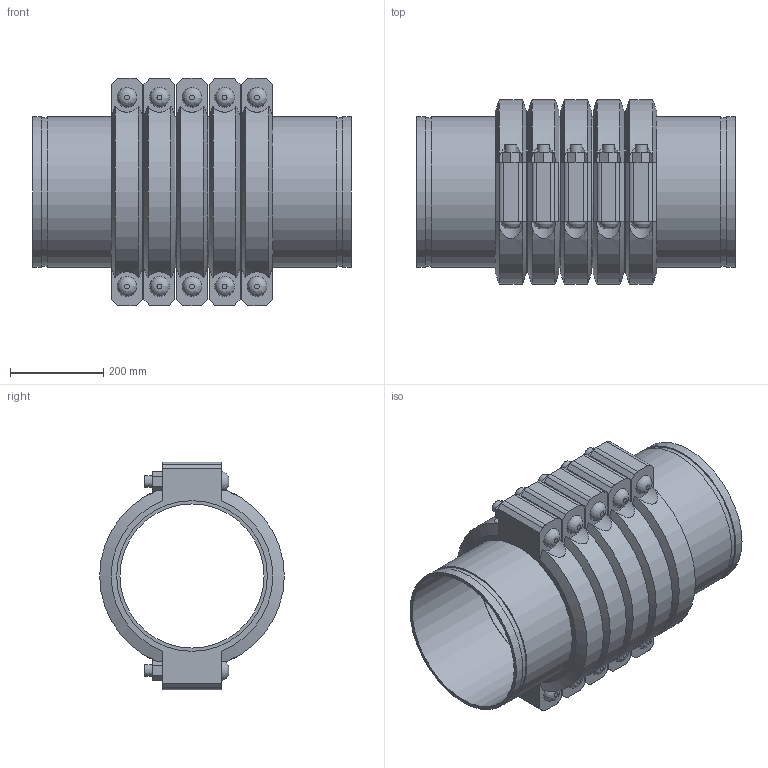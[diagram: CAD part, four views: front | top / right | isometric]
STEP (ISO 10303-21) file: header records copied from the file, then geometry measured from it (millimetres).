
FILE_DESCRIPTION(/* description */ ('VIC EXPANSION JOINT 5 COUPLINGS COMPRESSED STYLE 155 (OGS)','CAx-IF Rec.Pracs.---Representation and Presentation of Product Manufacturing Information (PMI)---4.0---2014-10-13'),/* implementation_level */ '2;1');
FILE_NAME(/* name */ 'C:\Users\kkamble\AppData\Roaming\Autodesk\ApplicationPlugins\Victaulic.Temp\A136\Victaulic_IPS_Expansion Joint_Compressed_5 Couplings_Style 155 (OGS)_12 (300).stp',/* time_stamp */ '2021-06-27T00:30:16+02:00',/* author */ ('kkamble'),/* organization */ ('Victaulic'),/* preprocessor_version */ 'ST-DEVELOPER v17.2',/* originating_system */ 'Autodesk Inventor 2019',/* authorisation */ '');
FILE_SCHEMA (('AP242_MANAGED_MODEL_BASED_3D_ENGINEERING_MIM_LF { 1 0 10303 442 1 1 4 }'));
Length unit declared in the file: inch
Products named in the file (4): 155-12.0; Nipple-12.0; Nipple-12.0_1; 077-12.0
Assembly tree (11 placements, depth 2):
  155-12.0
    Nipple-12.0  x2
    Nipple-12.0_1  x4
    077-12.0  x5
Bounding box: 685.8 x 397 x 488.95 mm (x, y, z)
Volume: 21366023 mm3; surface area: 3060953.6 mm2
Topology: 11 solids, 21 shells, 357 faces, 875 edges, 614 vertices
Faces by surface type: plane 206, cylinder 121, cone 20, bspline 10
Full cylindrical faces by diameter (mm): 25.4 x20, 27.432 x10, 309.677 x6, 318.287 x12, 323.85 x23
Entity records: 2963 total; most frequent: CARTESIAN_POINT 645, DIRECTION 459, ORIENTED_EDGE 398, EDGE_CURVE 199, AXIS2_PLACEMENT_3D 186, VERTEX_POINT 142, EDGE_LOOP 105, CIRCLE 92
